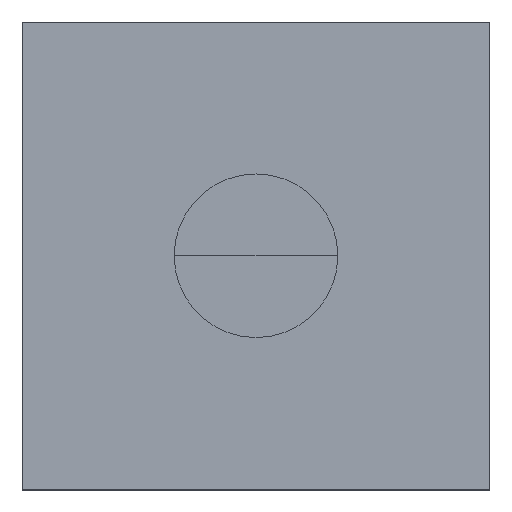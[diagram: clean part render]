
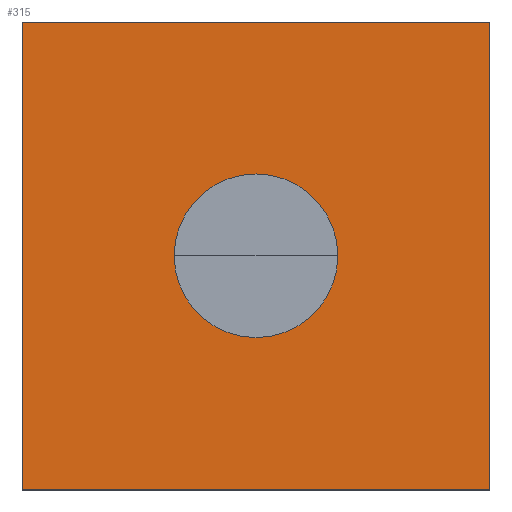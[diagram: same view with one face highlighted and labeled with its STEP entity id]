
A CAD part, top view. The second image highlights one B-rep face of the part: STEP entity #315.
In plain terms, the highlighted planar face has unit normal (0, 0, 1).
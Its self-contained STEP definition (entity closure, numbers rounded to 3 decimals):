
#9=CARTESIAN_POINT('',(0.,0.,0.66));
#10=DIRECTION('',(0.,0.,-1.));
#11=DIRECTION('',(1.,0.,0.));
#12=AXIS2_PLACEMENT_3D('',#9,#10,#11);
#14=CARTESIAN_POINT('',(0.,0.,0.66));
#15=DIRECTION('',(0.,0.,1.));
#16=DIRECTION('',(1.,0.,0.));
#17=AXIS2_PLACEMENT_3D('',#14,#15,#16);
#19=DIRECTION('',(0.,1.,0.));
#20=VECTOR('',#19,1.);
#21=CARTESIAN_POINT('',(-0.5,-0.5,0.66));
#22=LINE('',#21,#20);
#23=DIRECTION('',(1.,0.,0.));
#24=VECTOR('',#23,1.);
#25=CARTESIAN_POINT('',(-0.5,0.5,0.66));
#26=LINE('',#25,#24);
#27=DIRECTION('',(0.,-1.,0.));
#28=VECTOR('',#27,1.);
#29=CARTESIAN_POINT('',(0.5,0.5,0.66));
#30=LINE('',#29,#28);
#31=DIRECTION('',(-1.,0.,0.));
#32=VECTOR('',#31,1.);
#33=CARTESIAN_POINT('',(0.5,-0.5,0.66));
#34=LINE('',#33,#32);
#230=CARTESIAN_POINT('',(0.175,0.,0.66));
#232=VERTEX_POINT('',#230);
#233=CARTESIAN_POINT('',(-0.175,0.,0.66));
#234=VERTEX_POINT('',#233);
#244=CARTESIAN_POINT('',(-0.5,-0.5,0.66));
#245=CARTESIAN_POINT('',(-0.5,0.5,0.66));
#246=VERTEX_POINT('',#244);
#247=VERTEX_POINT('',#245);
#248=CARTESIAN_POINT('',(0.5,0.5,0.66));
#249=VERTEX_POINT('',#248);
#250=CARTESIAN_POINT('',(0.5,-0.5,0.66));
#251=VERTEX_POINT('',#250);
#296=CARTESIAN_POINT('',(0.,0.,0.66));
#297=DIRECTION('',(0.,0.,1.));
#298=DIRECTION('',(-1.,0.,0.));
#299=AXIS2_PLACEMENT_3D('',#296,#297,#298);
#300=PLANE('',#299);
#302=ORIENTED_EDGE('',*,*,#301,.T.);
#304=ORIENTED_EDGE('',*,*,#303,.T.);
#306=ORIENTED_EDGE('',*,*,#305,.T.);
#308=ORIENTED_EDGE('',*,*,#307,.T.);
#309=EDGE_LOOP('',(#302,#304,#306,#308));
#310=FACE_OUTER_BOUND('',#309,.F.);
#311=ORIENTED_EDGE('',*,*,#290,.F.);
#312=ORIENTED_EDGE('',*,*,#274,.T.);
#313=EDGE_LOOP('',(#311,#312));
#314=FACE_BOUND('',#313,.F.);
#315=ADVANCED_FACE('',(#310,#314),#300,.T.);
#13=CIRCLE('',#12,0.175);
#18=CIRCLE('',#17,0.175);
#274=EDGE_CURVE('',#232,#234,#18,.T.);
#290=EDGE_CURVE('',#232,#234,#13,.T.);
#301=EDGE_CURVE('',#246,#247,#22,.T.);
#303=EDGE_CURVE('',#247,#249,#26,.T.);
#305=EDGE_CURVE('',#249,#251,#30,.T.);
#307=EDGE_CURVE('',#251,#246,#34,.T.);
